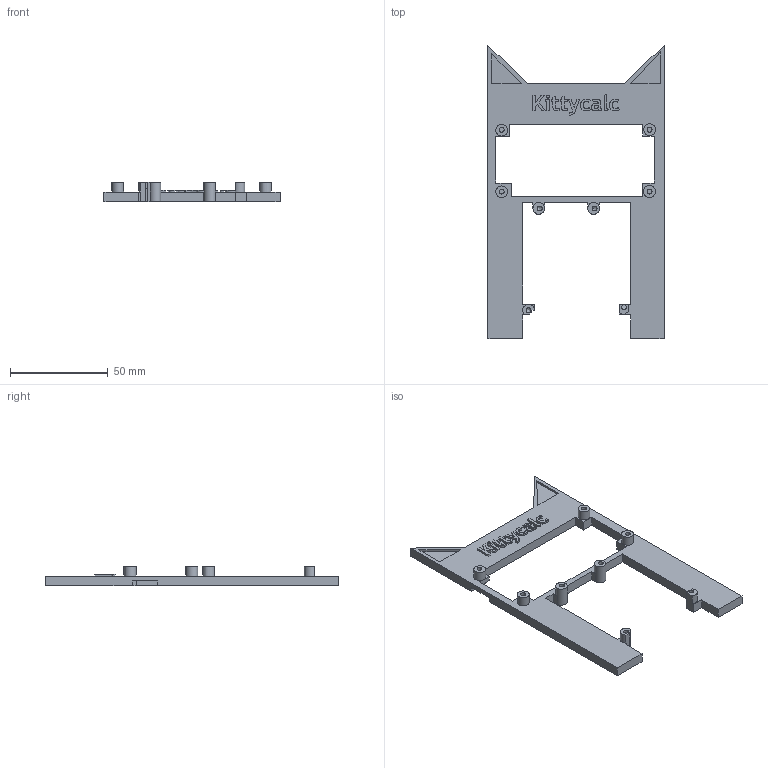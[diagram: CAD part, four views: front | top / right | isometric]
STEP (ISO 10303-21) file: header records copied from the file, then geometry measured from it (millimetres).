
FILE_DESCRIPTION(/* description */ (''),/* implementation_level */ '2;1');
FILE_NAME(/* name */ 'kittycalc.step',/* time_stamp */ '2026-07-11T14:24:43+02:00',/* author */ (''),/* organization */ (''),/* preprocessor_version */ 'ST-DEVELOPER v20.1',/* originating_system */ 'Autodesk Translation Framework v15.8.0.0',/* authorisation */ '');
FILE_SCHEMA (('AUTOMOTIVE_DESIGN { 1 0 10303 214 3 1 1 }'));
Length unit declared in the file: millimetre
Products named in the file (1): 2026-06-28-20-47-23-713
Bounding box: 90 x 150 x 10 mm (x, y, z)
Volume: 28628.4 mm3; surface area: 17064.8 mm2
Topology: 1 solids, 1 shells, 229 faces, 616 edges, 409 vertices
Faces by surface type: plane 136, bspline 72, cylinder 17, cone 4
Full cylindrical faces by diameter (mm): 2.5 x8, 6 x6
Entity records: 7890 total; most frequent: CARTESIAN_POINT 2592, ORIENTED_EDGE 1226, DIRECTION 813, EDGE_CURVE 613, LINE 429, VECTOR 429, VERTEX_POINT 409, EDGE_LOOP 254
